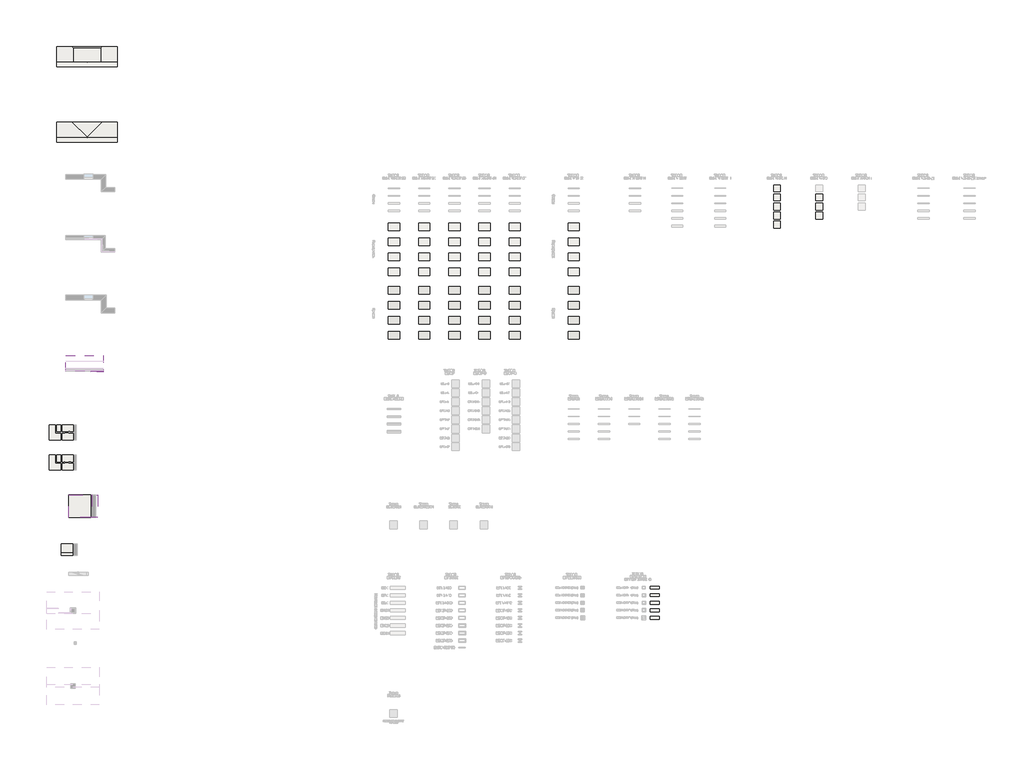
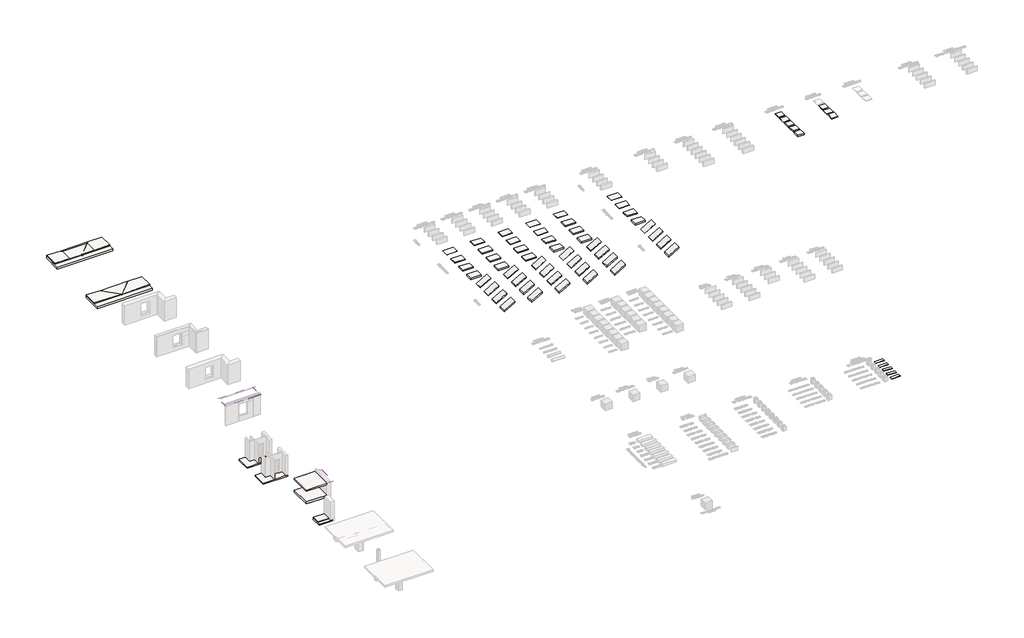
# One storey, part 5 of 35: 43 roofs, 30 slabs, 5 coverings, 1 pipe segment.
"""IFC4 building model written with IfcOpenShell, lengths in millimetres."""

from ifc_helpers import new_model, si_unit, point, frame, frame_2d, origin, origin_with_axes, place, context, project, spatial, polyline, circle_curve, ellipse_curve, trimmed, segment, composite_curve, outline, extrude, faceted_brep, element, save
from ifc_brep_helpers import plane_surface, revolved_surface, advanced_brep

model = new_model("IFC4")

# Units and contexts
model_context = context("Model", 3, world=origin())
ifc_project = project(units=[si_unit("LENGTHUNIT", "METRE", prefix="MILLI")], contexts=[model_context])

# Site, building, storey
site = spatial("IfcSite", under=ifc_project)
building = spatial("IfcBuilding", under=site)
storey = spatial("IfcBuildingStorey", under=building, Name="Этаж 01", Elevation=0.0)

# Coverings
placement = place(None, origin())
element("IfcCovering", 1, ObjectType="Тизол EURO-ЛИТ 80 (30мм)", at=placement, inside=storey, context=model_context, shape_type="SweptSolid", body=[
    extrude(outline(polyline([(37129.3548665, -48942.5493767), (37129.3548665, -49322.5493767), (35929.3548665, -49322.5493767), (35929.3548665, -48942.5493767), (37129.3548665, -48942.5493767)])), origin_with_axes(), (0.0, 0.0, 1.0), 30.0),
])
element("IfcCovering", 2, ObjectType="Тизол EURO-ЛИТ 80 (40мм)", at=placement, inside=storey, context=model_context, shape_type="SweptSolid", body=[
    extrude(outline(polyline([(37129.3548665, -49942.5493767), (37129.3548665, -50322.5493767), (35929.3548665, -50322.5493767), (35929.3548665, -49942.5493767), (37129.3548665, -49942.5493767)])), origin_with_axes(), (0.0, 0.0, 1.0), 40.0),
])
element("IfcCovering", 3, ObjectType="Тизол EURO-ЛИТ 80 (50мм)", at=placement, inside=storey, context=model_context, shape_type="SweptSolid", body=[
    extrude(outline(polyline([(37129.3548665, -50942.5493767), (37129.3548665, -51322.5493767), (35929.3548665, -51322.5493767), (35929.3548665, -50942.5493767), (37129.3548665, -50942.5493767)])), origin_with_axes(), (0.0, 0.0, 1.0), 50.0),
])
element("IfcCovering", 4, ObjectType="Тизол EURO-ЛИТ 80 (60мм)", at=placement, inside=storey, context=model_context, shape_type="SweptSolid", body=[
    extrude(outline(polyline([(37129.3548665, -51942.5493767), (37129.3548665, -52322.5493767), (35929.3548665, -52322.5493767), (35929.3548665, -51942.5493767), (37129.3548665, -51942.5493767)])), origin_with_axes(), (0.0, 0.0, 1.0), 60.0),
])
element("IfcCovering", 5, ObjectType="Тизол EURO-ЛИТ 80 (80мм)", at=placement, inside=storey, context=model_context, shape_type="SweptSolid", body=[
    extrude(outline(polyline([(37129.3548665, -52942.5493767), (37129.3548665, -53322.5493767), (35929.3548665, -53322.5493767), (35929.3548665, -52942.5493767), (37129.3548665, -52942.5493767)])), origin_with_axes(), (0.0, 0.0, 1.0), 80.0),
])

# Pipe segment
element("IfcPipeSegment", 6, ObjectType="ADSK_Желоб_Скос_125х125", at=placement, inside=storey, context=model_context, shape_type="SweptSolid", body=[
    extrude(outline(polyline([(-20449.5243348, 2980.3791945), (-20523.7243348, 2980.3791945), (-20561.8243348, 3079.8914271), (-20574.5243348, 3079.8914271), (-20574.5243348, 3092.5914271), (-20561.8243348, 3092.5914271), (-20561.8243348, 3089.4164271), (-20571.3493348, 3089.4164271), (-20571.3493348, 3083.0664271), (-20559.4620375, 3083.0664271), (-20521.3620375, 2983.5541945), (-20452.6993348, 2983.5541945), (-20452.6993348, 3105.2914271), (-20449.5243348, 3105.2914271), (-20449.5243348, 2980.3791945)])), frame((-38175.0301385, 0.0, 0.0), z_axis=(1.0, 0.0, 0.0), x_axis=(0.0, 1.0, 0.0)), (0.0, 0.0, 1.0), 1700.0),
])

# Roofs
element("IfcRoof", 7, ObjectType="Тизол EURO-РУФ Н (40мм)", at=placement, inside=storey, context=model_context, shape_type="SweptSolid", body=[
    extrude(outline(polyline([(52250.0, 4200.0), (53150.0, 4200.0), (53150.0, 3300.0), (52250.0, 3300.0), (52250.0, 4200.0)])), origin_with_axes(), (0.0, 0.0, 1.0), 40.0),
])
element("IfcRoof", 8, ObjectType="Тизол EURO-РУФ Н (50мм)", at=placement, inside=storey, context=model_context, shape_type="SweptSolid", body=[
    extrude(outline(polyline([(52250.0, 3000.0), (53150.0, 3000.0), (53150.0, 2100.0), (52250.0, 2100.0), (52250.0, 3000.0)])), origin_with_axes(), (0.0, 0.0, 1.0), 50.0),
])
element("IfcRoof", 9, ObjectType="Тизол EURO-РУФ Н (100мм)", at=placement, inside=storey, context=model_context, shape_type="SweptSolid", body=[
    extrude(outline(polyline([(52250.0, 1800.0), (53150.0, 1800.0), (53150.0, 900.0), (52250.0, 900.0), (52250.0, 1800.0)])), origin_with_axes(), (0.0, 0.0, 1.0), 100.0),
])
element("IfcRoof", 10, ObjectType="Тизол EURO-РУФ Н (150мм)", at=placement, inside=storey, context=model_context, shape_type="SweptSolid", body=[
    extrude(outline(polyline([(52250.0, 600.0), (53150.0, 600.0), (53150.0, -300.0), (52250.0, -300.0), (52250.0, 600.0)])), origin_with_axes(), (0.0, 0.0, 1.0), 150.0),
])
element("IfcRoof", 11, ObjectType="Тизол EURO-РУФ Н (200мм)", at=placement, inside=storey, context=model_context, shape_type="SweptSolid", body=[
    extrude(outline(polyline([(52250.0, -600.0), (53150.0, -600.0), (53150.0, -1500.0), (52250.0, -1500.0), (52250.0, -600.0)])), origin_with_axes(), (0.0, 0.0, 1.0), 200.0),
])
element("IfcRoof", 12, ObjectType="Тизол EURO-РУФ (50мм)", at=placement, inside=storey, context=model_context, shape_type="SweptSolid", body=[
    extrude(outline(polyline([(57850.0, 3000.0), (58750.0, 3000.0), (58750.0, 2100.0), (57850.0, 2100.0), (57850.0, 3000.0)])), origin_with_axes(), (0.0, 0.0, 1.0), 50.0),
])
element("IfcRoof", 13, ObjectType="Тизол EURO-РУФ (100мм)", at=placement, inside=storey, context=model_context, shape_type="SweptSolid", body=[
    extrude(outline(polyline([(57850.0, 1800.0), (58750.0, 1800.0), (58750.0, 900.0), (57850.0, 900.0), (57850.0, 1800.0)])), origin_with_axes(), (0.0, 0.0, 1.0), 100.0),
])
element("IfcRoof", 14, ObjectType="Тизол EURO-РУФ (150мм)", at=placement, inside=storey, context=model_context, shape_type="SweptSolid", body=[
    extrude(outline(polyline([(57850.0, 600.0), (58750.0, 600.0), (58750.0, -300.0), (57850.0, -300.0), (57850.0, 600.0)])), origin_with_axes(), (0.0, 0.0, 1.0), 150.0),
])
element("IfcRoof", 15, ObjectType="Плита Бетон 200мм Пароизоляция Утеплитель Тизол Руф-Н 100мм", at=placement, inside=storey, context=model_context, shape_type="SweptSolid", body=[
    extrude(outline(polyline([(-42637.9965418, 19844.4262823), (-42637.9965418, 22544.4262823), (-34637.9965418, 22544.4262823), (-34637.9965418, 19844.4262823), (-42637.9965418, 19844.4262823)]), holes=[composite_curve([segment(trimmed(circle_curve(frame_2d((-38637.9965418, 20544.4262823)), 50.0), [point((-38687.9965418, 20544.4262823))], [point((-38587.9965418, 20544.4262823))], True, "CARTESIAN"), True, "CONTINUOUS"), segment(trimmed(circle_curve(frame_2d((-38637.9965418, 20544.4262823)), 50.0), [point((-38587.9965418, 20544.4262823))], [point((-38687.9965418, 20544.4262823))], True, "CARTESIAN"), True, "CONTINUOUS")], self_intersect=False)]), origin_with_axes(), (0.0, 0.0, 1.0), 300.0),
])
element("IfcRoof", 16, ObjectType="Утеплитель Тизол Руф Уклон 110мм", at=placement, inside=storey, context=model_context, shape_type="SweptSolid", body=[
    extrude(outline(composite_curve([segment(polyline([(-42637.9965418, 22544.4262823), (-34637.9965418, 22544.4262823), (-34637.9965418, 20544.4262823), (-38587.9965418, 20544.4262823)]), True, "CONTINUOUS"), segment(trimmed(circle_curve(frame_2d((-38637.9965418, 20544.4262823)), 50.0), [point((-38587.9965418, 20544.4262823))], [point((-38687.9965418, 20544.4262823))], True, "CARTESIAN"), True, "CONTINUOUS"), segment(polyline([(-38687.9965418, 20544.4262823), (-42637.9965418, 20544.4262823), (-42637.9965418, 22544.4262823)]), True, "CONTINUOUS")], self_intersect=False)), frame((0.0, 0.0, 300.0), z_axis=(0.0, 0.0, 1.0), x_axis=(1.0, 0.0, 0.0)), (0.0, 0.0, 1.0), 110.0),
])
element("IfcRoof", 17, ObjectType="Покрытие ПВХ_стяжка 50 мм", at=placement, inside=storey, context=model_context, shape_type="AdvancedBrep", body=[
    advanced_brep(
    [(-40637.9965418, 22544.4262823, 360.0), (-42637.9965418, 22544.4262823, 410.0), (-42637.9965418, 22544.4262823, 465.0171848), (-40637.9965418, 22544.4262823, 415.0171848), (-42637.9965418, 20544.4262823, 410.0), (-42637.9965418, 20544.4262823, 465.0171848), (-38673.3518808, 20579.7816214, 310.8838835), (-38687.9965418, 20544.4262823, 311.25), (-38687.9965418, 20544.4262823, 366.2671848), (-38673.3518808, 20579.7816214, 365.9010683)],
    [
        (0, 1),
        (1, 2),
        (2, 3),
        (3, 0),
        (1, 4),
        (4, 5),
        (5, 2),
        (0, 6),
        (6, 7, ellipse_curve(frame((-38637.9965418, 20544.4262823, 310.0), z_axis=(0.02499219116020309, 0.0, 0.9996876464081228), x_axis=(-0.9996876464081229, 0.0, 0.024992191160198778)), 50.0156226, 50.0)),
        (7, 4),
        (5, 8),
        (8, 9, ellipse_curve(frame((-38637.9965418, 20544.4262823, 365.0171848), z_axis=(-0.02499219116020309, 0.0, -0.9996876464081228), x_axis=(-0.9996876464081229, 0.0, 0.024992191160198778)), 50.0156226, 50.0)),
        (9, 3),
        (7, 8),
        (6, 9),
    ],
    [
        plane_surface(frame((-40637.9965418, 22544.4262823, 0.0), z_axis=(0.0, 1.0, 0.0), x_axis=(-1.0, 0.0, 0.0))),
        plane_surface(frame((-42637.9965418, 22544.4262823, 0.0), z_axis=(-1.0, 0.0, 0.0), x_axis=(0.0, -1.0, 0.0))),
        plane_surface(frame((-42637.9965418, 20544.4262823, 410.0), z_axis=(-0.02499219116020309, 0.0, -0.9996876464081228), x_axis=(0.0, -1.0, 0.0))),
        plane_surface(frame((-42637.9965418, 20544.4262823, 465.0171848), z_axis=(0.02499219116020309, 0.0, 0.9996876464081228), x_axis=(0.0, -1.0, 0.0))),
        plane_surface(frame((-42637.9965418, 20544.4262823, 0.0), z_axis=(0.0, -1.0, 0.0), x_axis=(1.0, 0.0, 0.0))),
        revolved_surface(polyline([(-38587.9965418, 20544.4262823, 366.26718480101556), (-38587.9965418, 20544.4262823, 308.74999999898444)]), (-38637.9965418, 20544.4262823, 0.0), (0.0, 0.0, 1.0)),
        plane_surface(frame((-38637.9965418, 20544.4262823, 0.0), z_axis=(0.7071067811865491, 0.707106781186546, 0.0), x_axis=(-0.707106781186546, 0.7071067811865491, 0.0))),
    ],
    [
        (0, [[1, 2, 3, 4]]),
        (1, [[5, 6, 7, -2]]),
        (2, [[-1, 8, 9, 10, -5]]),
        (3, [[-3, -7, 11, 12, 13]]),
        (4, [[-6, -10, 14, -11]]),
        (5, [[-9, 15, -12, -14]]),
        (6, [[-4, -13, -15, -8]]),
    ],
),
])
element("IfcRoof", 18, ObjectType="Покрытие ПВХ_стяжка 50 мм", at=placement, inside=storey, context=model_context, shape_type="AdvancedBrep", body=[
    advanced_brep(
    [(-34637.9965418, 22544.4262823, 410.0), (-36637.9965418, 22544.4262823, 360.0), (-36637.9965418, 22544.4262823, 415.0171848), (-34637.9965418, 22544.4262823, 465.0171848), (-34637.9965418, 20544.4262823, 410.0), (-34637.9965418, 20544.4262823, 465.0171848), (-38587.9965418, 20544.4262823, 311.25), (-38602.6412027, 20579.7816214, 310.8838835), (-38602.6412027, 20579.7816214, 365.9010683), (-38587.9965418, 20544.4262823, 366.2671848)],
    [
        (0, 1),
        (1, 2),
        (2, 3),
        (3, 0),
        (4, 0),
        (3, 5),
        (5, 4),
        (4, 6),
        (6, 7, ellipse_curve(frame((-38637.9965418, 20544.4262823, 310.0), z_axis=(-0.02499219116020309, 0.0, 0.9996876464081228), x_axis=(0.9996876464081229, 0.0, 0.024992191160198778)), 50.0156226, 50.0)),
        (7, 1),
        (2, 8),
        (8, 9, ellipse_curve(frame((-38637.9965418, 20544.4262823, 365.0171848), z_axis=(0.02499219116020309, 0.0, -0.9996876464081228), x_axis=(0.9996876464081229, 0.0, 0.024992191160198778)), 50.0156226, 50.0)),
        (9, 5),
        (9, 6),
        (7, 8),
    ],
    [
        plane_surface(frame((-34637.9965418, 22544.4262823, 0.0), z_axis=(0.0, 1.0, 0.0), x_axis=(-1.0, 0.0, 0.0))),
        plane_surface(frame((-34637.9965418, 20544.4262823, 0.0), z_axis=(1.0, 0.0, 0.0), x_axis=(0.0, 1.0, 0.0))),
        plane_surface(frame((-34637.9965418, 20544.4262823, 410.0), z_axis=(0.02499219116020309, 0.0, -0.9996876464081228), x_axis=(0.0, 1.0, 0.0))),
        plane_surface(frame((-34637.9965418, 20544.4262823, 465.0171848), z_axis=(-0.02499219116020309, 0.0, 0.9996876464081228), x_axis=(0.0, 1.0, 0.0))),
        plane_surface(frame((-38637.9965418, 20544.4262823, 0.0), z_axis=(0.0, -1.0, 0.0), x_axis=(1.0, 0.0, 0.0))),
        plane_surface(frame((-36637.9965418, 22544.4262823, 0.0), z_axis=(-0.7071067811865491, 0.707106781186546, 0.0), x_axis=(-0.707106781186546, -0.7071067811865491, 0.0))),
        revolved_surface(polyline([(-38587.9965418, 20544.4262823, 366.26718480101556), (-38587.9965418, 20544.4262823, 308.74999999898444)]), (-38637.9965418, 20544.4262823, 0.0), (0.0, 0.0, 1.0)),
    ],
    [
        (0, [[1, 2, 3, 4]]),
        (1, [[5, -4, 6, 7]]),
        (2, [[-1, -5, 8, 9, 10]]),
        (3, [[-3, 11, 12, 13, -6]]),
        (4, [[-7, -13, 14, -8]]),
        (5, [[-2, -10, 15, -11]]),
        (6, [[-9, -14, -12, -15]]),
    ],
),
])
element("IfcRoof", 19, ObjectType="Покрытие ПВХ_стяжка 50 мм", at=placement, inside=storey, context=model_context, shape_type="AdvancedBrep", body=[
    advanced_brep(
    [(-40637.9965418, 22544.4262823, 360.0), (-36637.9965418, 22544.4262823, 360.0), (-38602.6412027, 20579.7816214, 310.8838835), (-38673.3518808, 20579.7816214, 310.8838835), (-36637.9965418, 22544.4262823, 415.0171848), (-40637.9965418, 22544.4262823, 415.0171848), (-38673.3518808, 20579.7816214, 365.9010683), (-38602.6412027, 20579.7816214, 365.9010683)],
    [
        (0, 1),
        (1, 2),
        (2, 3, ellipse_curve(frame((-38637.9965418, 20544.4262823, 310.0), z_axis=(0.0, -0.02499219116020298, 0.9996876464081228), x_axis=(0.0, 0.9996876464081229, 0.02499219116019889)), 50.0156226, 50.0)),
        (3, 0),
        (4, 5),
        (5, 6),
        (6, 7, ellipse_curve(frame((-38637.9965418, 20544.4262823, 365.0171848), z_axis=(0.0, 0.02499219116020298, -0.9996876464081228), x_axis=(0.0, 0.9996876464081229, 0.02499219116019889)), 50.0156226, 50.0)),
        (7, 4),
        (5, 0),
        (3, 6),
        (2, 7),
        (1, 4),
    ],
    [
        plane_surface(frame((-40637.9965418, 22544.4262823, 360.0), z_axis=(0.0, 0.02499219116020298, -0.9996876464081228), x_axis=(-1.0, 0.0, 0.0))),
        plane_surface(frame((-40637.9965418, 22544.4262823, 415.0171848), z_axis=(0.0, -0.02499219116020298, 0.9996876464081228), x_axis=(-1.0, 0.0, 0.0))),
        plane_surface(frame((-40637.9965418, 22544.4262823, 0.0), z_axis=(-0.7071067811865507, -0.7071067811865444, 0.0), x_axis=(0.7071067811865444, -0.7071067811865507, 0.0))),
        revolved_surface(polyline([(-38587.9965418, 20544.4262823, 366.26718480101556), (-38587.9965418, 20544.4262823, 308.74999999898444)]), (-38637.9965418, 20544.4262823, 0.0), (0.0, 0.0, 1.0)),
        plane_surface(frame((-38637.9965418, 20544.4262823, 0.0), z_axis=(0.7071067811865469, -0.7071067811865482, 0.0), x_axis=(0.7071067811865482, 0.7071067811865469, 0.0))),
        plane_surface(frame((-36637.9965418, 22544.4262823, 0.0), z_axis=(0.0, 1.0, 0.0), x_axis=(-1.0, 0.0, 0.0))),
    ],
    [
        (0, [[1, 2, 3, 4]]),
        (1, [[5, 6, 7, 8]]),
        (2, [[9, -4, 10, -6]]),
        (3, [[-3, 11, -7, -10]]),
        (4, [[12, -8, -11, -2]]),
        (5, [[-1, -9, -5, -12]]),
    ],
),
])
element("IfcRoof", 20, ObjectType="Плита Бетон 200мм Пароизоляция Керамзитобетон 130мм", at=placement, inside=storey, context=model_context, shape_type="SweptSolid", body=[
    extrude(outline(polyline([(-42637.9965418, 9844.4262823), (-42637.9965418, 12544.4262823), (-34637.9965418, 12544.4262823), (-34637.9965418, 9844.4262823), (-42637.9965418, 9844.4262823)]), holes=[composite_curve([segment(trimmed(circle_curve(frame_2d((-38637.9965418, 10544.4262823)), 50.0), [point((-38687.9965418, 10544.4262823))], [point((-38587.9965418, 10544.4262823))], True, "CARTESIAN"), True, "CONTINUOUS"), segment(trimmed(circle_curve(frame_2d((-38637.9965418, 10544.4262823)), 50.0), [point((-38587.9965418, 10544.4262823))], [point((-38687.9965418, 10544.4262823))], True, "CARTESIAN"), True, "CONTINUOUS")], self_intersect=False)]), origin_with_axes(), (0.0, 0.0, 1.0), 330.0),
])
element("IfcRoof", 21, ObjectType="Покрытие ПВХ_Утеплитель Тизол EURO РУФ 150 мм", at=placement, inside=storey, context=model_context, shape_type="AdvancedBrep", body=[
    advanced_brep(
    [(-40637.9965418, 12544.4262823, 280.0), (-42637.9965418, 12544.4262823, 330.0), (-42637.9965418, 12544.4262823, 485.0484299), (-40637.9965418, 12544.4262823, 435.0484299), (-42637.9965418, 10544.4262823, 330.0), (-42637.9965418, 10544.4262823, 485.0484299), (-38673.3518808, 10579.7816214, 230.8838835), (-38687.9965418, 10544.4262823, 231.25), (-38687.9965418, 10544.4262823, 386.2984299), (-38673.3518808, 10579.7816214, 385.9323134)],
    [
        (0, 1),
        (1, 2),
        (2, 3),
        (3, 0),
        (1, 4),
        (4, 5),
        (5, 2),
        (0, 6),
        (6, 7, ellipse_curve(frame((-38637.9965418, 10544.4262823, 230.0), z_axis=(0.02499219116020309, 0.0, 0.9996876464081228), x_axis=(-0.9996876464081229, 0.0, 0.024992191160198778)), 50.0156226, 50.0)),
        (7, 4),
        (5, 8),
        (8, 9, ellipse_curve(frame((-38637.9965418, 10544.4262823, 385.0484299), z_axis=(-0.02499219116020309, 0.0, -0.9996876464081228), x_axis=(-0.9996876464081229, 0.0, 0.024992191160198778)), 50.0156226, 50.0)),
        (9, 3),
        (7, 8),
        (6, 9),
    ],
    [
        plane_surface(frame((-40637.9965418, 12544.4262823, 0.0), z_axis=(0.0, 1.0, 0.0), x_axis=(-1.0, 0.0, 0.0))),
        plane_surface(frame((-42637.9965418, 12544.4262823, 0.0), z_axis=(-1.0, 0.0, 0.0), x_axis=(0.0, -1.0, 0.0))),
        plane_surface(frame((-42637.9965418, 10544.4262823, 330.0), z_axis=(-0.02499219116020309, 0.0, -0.9996876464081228), x_axis=(0.0, -1.0, 0.0))),
        plane_surface(frame((-42637.9965418, 10544.4262823, 485.0484299), z_axis=(0.02499219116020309, 0.0, 0.9996876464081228), x_axis=(0.0, -1.0, 0.0))),
        plane_surface(frame((-42637.9965418, 10544.4262823, 0.0), z_axis=(0.0, -1.0, 0.0), x_axis=(1.0, 0.0, 0.0))),
        revolved_surface(polyline([(-38587.9965418, 10544.4262823, 386.29842990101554), (-38587.9965418, 10544.4262823, 228.74999999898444)]), (-38637.9965418, 10544.4262823, 0.0), (0.0, 0.0, 1.0)),
        plane_surface(frame((-38637.9965418, 10544.4262823, 0.0), z_axis=(0.7071067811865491, 0.707106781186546, 0.0), x_axis=(-0.707106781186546, 0.7071067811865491, 0.0))),
    ],
    [
        (0, [[1, 2, 3, 4]]),
        (1, [[5, 6, 7, -2]]),
        (2, [[-1, 8, 9, 10, -5]]),
        (3, [[-3, -7, 11, 12, 13]]),
        (4, [[-6, -10, 14, -11]]),
        (5, [[-9, 15, -12, -14]]),
        (6, [[-4, -13, -15, -8]]),
    ],
),
])
element("IfcRoof", 22, ObjectType="Покрытие ПВХ_Утеплитель Тизол EURO РУФ 150 мм", at=placement, inside=storey, context=model_context, shape_type="AdvancedBrep", body=[
    advanced_brep(
    [(-34637.9965418, 12544.4262823, 330.0), (-36637.9965418, 12544.4262823, 280.0), (-36637.9965418, 12544.4262823, 435.0484299), (-34637.9965418, 12544.4262823, 485.0484299), (-34637.9965418, 10544.4262823, 330.0), (-34637.9965418, 10544.4262823, 485.0484299), (-38587.9965418, 10544.4262823, 231.25), (-38602.6412027, 10579.7816214, 230.8838835), (-38602.6412027, 10579.7816214, 385.9323134), (-38587.9965418, 10544.4262823, 386.2984299)],
    [
        (0, 1),
        (1, 2),
        (2, 3),
        (3, 0),
        (4, 0),
        (3, 5),
        (5, 4),
        (4, 6),
        (6, 7, ellipse_curve(frame((-38637.9965418, 10544.4262823, 230.0), z_axis=(-0.02499219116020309, 0.0, 0.9996876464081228), x_axis=(0.9996876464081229, 0.0, 0.024992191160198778)), 50.0156226, 50.0)),
        (7, 1),
        (2, 8),
        (8, 9, ellipse_curve(frame((-38637.9965418, 10544.4262823, 385.0484299), z_axis=(0.02499219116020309, 0.0, -0.9996876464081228), x_axis=(0.9996876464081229, 0.0, 0.024992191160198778)), 50.0156226, 50.0)),
        (9, 5),
        (9, 6),
        (7, 8),
    ],
    [
        plane_surface(frame((-34637.9965418, 12544.4262823, 0.0), z_axis=(0.0, 1.0, 0.0), x_axis=(-1.0, 0.0, 0.0))),
        plane_surface(frame((-34637.9965418, 10544.4262823, 0.0), z_axis=(1.0, 0.0, 0.0), x_axis=(0.0, 1.0, 0.0))),
        plane_surface(frame((-34637.9965418, 10544.4262823, 330.0), z_axis=(0.02499219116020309, 0.0, -0.9996876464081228), x_axis=(0.0, 1.0, 0.0))),
        plane_surface(frame((-34637.9965418, 10544.4262823, 485.0484299), z_axis=(-0.02499219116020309, 0.0, 0.9996876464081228), x_axis=(0.0, 1.0, 0.0))),
        plane_surface(frame((-38637.9965418, 10544.4262823, 0.0), z_axis=(0.0, -1.0, 0.0), x_axis=(1.0, 0.0, 0.0))),
        plane_surface(frame((-36637.9965418, 12544.4262823, 0.0), z_axis=(-0.7071067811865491, 0.707106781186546, 0.0), x_axis=(-0.707106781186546, -0.7071067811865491, 0.0))),
        revolved_surface(polyline([(-38587.9965418, 10544.4262823, 386.29842990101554), (-38587.9965418, 10544.4262823, 228.74999999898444)]), (-38637.9965418, 10544.4262823, 0.0), (0.0, 0.0, 1.0)),
    ],
    [
        (0, [[1, 2, 3, 4]]),
        (1, [[5, -4, 6, 7]]),
        (2, [[-1, -5, 8, 9, 10]]),
        (3, [[-3, 11, 12, 13, -6]]),
        (4, [[-7, -13, 14, -8]]),
        (5, [[-2, -10, 15, -11]]),
        (6, [[-9, -14, -12, -15]]),
    ],
),
])
element("IfcRoof", 23, ObjectType="Покрытие ПВХ_Утеплитель Тизол EURO РУФ 150 мм", at=placement, inside=storey, context=model_context, shape_type="AdvancedBrep", body=[
    advanced_brep(
    [(-40637.9965418, 12544.4262823, 280.0), (-36637.9965418, 12544.4262823, 280.0), (-38602.6412027, 10579.7816214, 230.8838835), (-38673.3518808, 10579.7816214, 230.8838835), (-36637.9965418, 12544.4262823, 435.0484299), (-40637.9965418, 12544.4262823, 435.0484299), (-38673.3518808, 10579.7816214, 385.9323134), (-38602.6412027, 10579.7816214, 385.9323134)],
    [
        (0, 1),
        (1, 2),
        (2, 3, ellipse_curve(frame((-38637.9965418, 10544.4262823, 230.0), z_axis=(0.0, -0.024992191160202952, 0.9996876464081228), x_axis=(0.0, 0.9996876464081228, 0.024992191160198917)), 50.0156226, 50.0)),
        (3, 0),
        (4, 5),
        (5, 6),
        (6, 7, ellipse_curve(frame((-38637.9965418, 10544.4262823, 385.0484299), z_axis=(0.0, 0.02499219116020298, -0.9996876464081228), x_axis=(0.0, 0.9996876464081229, 0.02499219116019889)), 50.0156226, 50.0)),
        (7, 4),
        (5, 0),
        (3, 6),
        (2, 7),
        (1, 4),
    ],
    [
        plane_surface(frame((-40637.9965418, 12544.4262823, 280.0), z_axis=(0.0, 0.024992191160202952, -0.9996876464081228), x_axis=(-1.0, 0.0, 0.0))),
        plane_surface(frame((-40637.9965418, 12544.4262823, 435.0484299), z_axis=(0.0, -0.02499219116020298, 0.9996876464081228), x_axis=(-1.0, 0.0, 0.0))),
        plane_surface(frame((-40637.9965418, 12544.4262823, 0.0), z_axis=(-0.7071067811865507, -0.7071067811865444, 0.0), x_axis=(0.7071067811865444, -0.7071067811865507, 0.0))),
        revolved_surface(polyline([(-38587.9965418, 10544.4262823, 386.29842990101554), (-38587.9965418, 10544.4262823, 228.74999999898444)]), (-38637.9965418, 10544.4262823, 0.0), (0.0, 0.0, 1.0)),
        plane_surface(frame((-38637.9965418, 10544.4262823, 0.0), z_axis=(0.7071067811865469, -0.7071067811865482, 0.0), x_axis=(0.7071067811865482, 0.7071067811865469, 0.0))),
        plane_surface(frame((-36637.9965418, 12544.4262823, 0.0), z_axis=(0.0, 1.0, 0.0), x_axis=(-1.0, 0.0, 0.0))),
    ],
    [
        (0, [[1, 2, 3, 4]]),
        (1, [[5, 6, 7, 8]]),
        (2, [[9, -4, 10, -6]]),
        (3, [[-3, 11, -7, -10]]),
        (4, [[12, -8, -11, -2]]),
        (5, [[-1, -9, -5, -12]]),
    ],
),
])
element("IfcRoof", 24, ObjectType="Каркасная кровля Профлист С-20 Утеплитель Тизол EURO ЛАЙТ 50 100мм Профлист С-20", at=placement, inside=storey, context=model_context, shape_type="Brep", body=[
    faceted_brep([(-41475.0301385, -20409.5243348, 3000.0), (-41475.0301385, -20259.5243348, 3040.1923789), (-41475.0301385, -18409.5243348, 3535.8983849), (-36475.0301385, -18409.5243348, 3535.8983849), (-36475.0301385, -20259.5243348, 3040.1923789), (-36475.0301385, -20409.5243348, 3000.0), (-41475.0301385, -18409.5243348, 3691.1898119), (-41475.0301385, -20409.5243348, 3155.2914271), (-36475.0301385, -20409.5243348, 3155.2914271), (-36475.0301385, -18409.5243348, 3691.1898119)], [[[0, 1, 2, 3, 4, 5]], [[6, 7, 8, 9]], [[5, 8, 7, 0]], [[7, 6, 2, 1, 0]], [[6, 9, 3, 2]], [[9, 8, 5, 4, 3]]]),
])
element("IfcRoof", 25, ObjectType="Скатная кровля Черепица 50мм Утеплитель Тизол EURO-БЛОК 200мм", at=placement, inside=storey, context=model_context, shape_type="SweptSolid", body=[
    extrude(outline(polyline([(3925.6852877, -41044.6755112), (1805.3664241, -37372.1755112), (2121.4656965, -37189.6755112), (4347.1509842, -41044.6755112), (3925.6852877, -41044.6755112)])), frame((0.0, -39859.6455937, 0.0), z_axis=(0.0, 1.0, 0.0), x_axis=(0.0, 0.0, 1.0)), (0.0, 0.0, 1.0), 3000.0),
])
element("IfcRoof", 26, ObjectType="Тизол EURO-ЛАЙТ 25 (50мм)", at=placement, inside=storey, context=model_context, shape_type="SweptSolid", body=[
    extrude(outline(polyline([(923.7604307, 2738.9564212), (57.7350269, 1238.9564212), (0.0, 1238.9564212), (866.0254038, 2738.9564212), (923.7604307, 2738.9564212)])), frame((0.0, -10227.4513899, 0.0), z_axis=(0.0, 1.0, 0.0), x_axis=(0.0, 0.0, 1.0)), (0.0, 0.0, 1.0), 1000.0),
])
element("IfcRoof", 27, ObjectType="Тизол EURO-ЛАЙТ 25 (100мм)", at=placement, inside=storey, context=model_context, shape_type="SweptSolid", body=[
    extrude(outline(polyline([(981.4954576, 2738.9564212), (115.4700538, 1238.9564212), (0.0, 1238.9564212), (866.0254038, 2738.9564212), (981.4954576, 2738.9564212)])), frame((0.0, -12227.4513899, 0.0), z_axis=(0.0, 1.0, 0.0), x_axis=(0.0, 0.0, 1.0)), (0.0, 0.0, 1.0), 1000.0),
])
element("IfcRoof", 28, ObjectType="Тизол EURO-ЛАЙТ 25 (150мм)", at=placement, inside=storey, context=model_context, shape_type="SweptSolid", body=[
    extrude(outline(polyline([(1039.2304845, 2738.9564212), (173.2050808, 1238.9564212), (0.0, 1238.9564212), (866.0254038, 2738.9564212), (1039.2304845, 2738.9564212)])), frame((0.0, -14227.4513899, 0.0), z_axis=(0.0, 1.0, 0.0), x_axis=(0.0, 0.0, 1.0)), (0.0, 0.0, 1.0), 1000.0),
])
element("IfcRoof", 29, ObjectType="Тизол EURO-ЛАЙТ 25 (200мм)", at=placement, inside=storey, context=model_context, shape_type="SweptSolid", body=[
    extrude(outline(polyline([(1096.9655115, 2738.9564212), (230.9401077, 1238.9564212), (0.0, 1238.9564212), (866.0254038, 2738.9564212), (1096.9655115, 2738.9564212)])), frame((0.0, -16227.4513899, 0.0), z_axis=(0.0, 1.0, 0.0), x_axis=(0.0, 0.0, 1.0)), (0.0, 0.0, 1.0), 1000.0),
])
element("IfcRoof", 30, ObjectType="Тизол EURO-ЛАЙТ 30 (50мм)", at=placement, inside=storey, context=model_context, shape_type="SweptSolid", body=[
    extrude(outline(polyline([(923.7604307, 6738.9564212), (57.7350269, 5238.9564212), (0.0, 5238.9564212), (866.0254038, 6738.9564212), (923.7604307, 6738.9564212)])), frame((0.0, -10227.4513899, 0.0), z_axis=(0.0, 1.0, 0.0), x_axis=(0.0, 0.0, 1.0)), (0.0, 0.0, 1.0), 1000.0),
])
element("IfcRoof", 31, ObjectType="Тизол EURO-ЛАЙТ 30 (100мм)", at=placement, inside=storey, context=model_context, shape_type="SweptSolid", body=[
    extrude(outline(polyline([(981.4954576, 6738.9564212), (115.4700538, 5238.9564212), (0.0, 5238.9564212), (866.0254038, 6738.9564212), (981.4954576, 6738.9564212)])), frame((0.0, -12227.4513899, 0.0), z_axis=(0.0, 1.0, 0.0), x_axis=(0.0, 0.0, 1.0)), (0.0, 0.0, 1.0), 1000.0),
])
element("IfcRoof", 32, ObjectType="Тизол EURO-ЛАЙТ 30 (150мм)", at=placement, inside=storey, context=model_context, shape_type="SweptSolid", body=[
    extrude(outline(polyline([(1039.2304845, 6738.9564212), (173.2050808, 5238.9564212), (0.0, 5238.9564212), (866.0254038, 6738.9564212), (1039.2304845, 6738.9564212)])), frame((0.0, -14227.4513899, 0.0), z_axis=(0.0, 1.0, 0.0), x_axis=(0.0, 0.0, 1.0)), (0.0, 0.0, 1.0), 1000.0),
])
element("IfcRoof", 33, ObjectType="Тизол EURO-ЛАЙТ 30 (200мм)", at=placement, inside=storey, context=model_context, shape_type="SweptSolid", body=[
    extrude(outline(polyline([(1096.9655115, 6738.9564212), (230.9401077, 5238.9564212), (0.0, 5238.9564212), (866.0254038, 6738.9564212), (1096.9655115, 6738.9564212)])), frame((0.0, -16227.4513899, 0.0), z_axis=(0.0, 1.0, 0.0), x_axis=(0.0, 0.0, 1.0)), (0.0, 0.0, 1.0), 1000.0),
])
element("IfcRoof", 34, ObjectType="Тизол EURO-ЛАЙТ 35 (50мм)", at=placement, inside=storey, context=model_context, shape_type="SweptSolid", body=[
    extrude(outline(polyline([(923.7604307, 10738.9564212), (57.7350269, 9238.9564212), (0.0, 9238.9564212), (866.0254038, 10738.9564212), (923.7604307, 10738.9564212)])), frame((0.0, -10227.4513899, 0.0), z_axis=(0.0, 1.0, 0.0), x_axis=(0.0, 0.0, 1.0)), (0.0, 0.0, 1.0), 1000.0),
])
element("IfcRoof", 35, ObjectType="Тизол EURO-ЛАЙТ 35 (100мм)", at=placement, inside=storey, context=model_context, shape_type="SweptSolid", body=[
    extrude(outline(polyline([(981.4954576, 10738.9564212), (115.4700538, 9238.9564212), (0.0, 9238.9564212), (866.0254038, 10738.9564212), (981.4954576, 10738.9564212)])), frame((0.0, -12227.4513899, 0.0), z_axis=(0.0, 1.0, 0.0), x_axis=(0.0, 0.0, 1.0)), (0.0, 0.0, 1.0), 1000.0),
])
element("IfcRoof", 36, ObjectType="Тизол EURO-ЛАЙТ 35 (150мм)", at=placement, inside=storey, context=model_context, shape_type="SweptSolid", body=[
    extrude(outline(polyline([(1039.2304845, 10738.9564212), (173.2050808, 9238.9564212), (0.0, 9238.9564212), (866.0254038, 10738.9564212), (1039.2304845, 10738.9564212)])), frame((0.0, -14227.4513899, 0.0), z_axis=(0.0, 1.0, 0.0), x_axis=(0.0, 0.0, 1.0)), (0.0, 0.0, 1.0), 1000.0),
])
element("IfcRoof", 37, ObjectType="Тизол EURO-ЛАЙТ 35 (200мм)", at=placement, inside=storey, context=model_context, shape_type="SweptSolid", body=[
    extrude(outline(polyline([(1096.9655115, 10738.9564212), (230.9401077, 9238.9564212), (0.0, 9238.9564212), (866.0254038, 10738.9564212), (1096.9655115, 10738.9564212)])), frame((0.0, -16227.4513899, 0.0), z_axis=(0.0, 1.0, 0.0), x_axis=(0.0, 0.0, 1.0)), (0.0, 0.0, 1.0), 1000.0),
])
element("IfcRoof", 38, ObjectType="Тизол EURO-ЛАЙТ 40 (50мм)", at=placement, inside=storey, context=model_context, shape_type="SweptSolid", body=[
    extrude(outline(polyline([(923.7604307, 14738.9564212), (57.7350269, 13238.9564212), (0.0, 13238.9564212), (866.0254038, 14738.9564212), (923.7604307, 14738.9564212)])), frame((0.0, -10227.4513899, 0.0), z_axis=(0.0, 1.0, 0.0), x_axis=(0.0, 0.0, 1.0)), (0.0, 0.0, 1.0), 1000.0),
])
element("IfcRoof", 39, ObjectType="Тизол EURO-ЛАЙТ 40 (100мм)", at=placement, inside=storey, context=model_context, shape_type="SweptSolid", body=[
    extrude(outline(polyline([(981.4954576, 14738.9564212), (115.4700538, 13238.9564212), (0.0, 13238.9564212), (866.0254038, 14738.9564212), (981.4954576, 14738.9564212)])), frame((0.0, -12227.4513899, 0.0), z_axis=(0.0, 1.0, 0.0), x_axis=(0.0, 0.0, 1.0)), (0.0, 0.0, 1.0), 1000.0),
])
element("IfcRoof", 40, ObjectType="Тизол EURO-ЛАЙТ 40 (150мм)", at=placement, inside=storey, context=model_context, shape_type="SweptSolid", body=[
    extrude(outline(polyline([(1039.2304845, 14738.9564212), (173.2050808, 13238.9564212), (0.0, 13238.9564212), (866.0254038, 14738.9564212), (1039.2304845, 14738.9564212)])), frame((0.0, -14227.4513899, 0.0), z_axis=(0.0, 1.0, 0.0), x_axis=(0.0, 0.0, 1.0)), (0.0, 0.0, 1.0), 1000.0),
])
element("IfcRoof", 41, ObjectType="Тизол EURO-ЛАЙТ 40 (200мм)", at=placement, inside=storey, context=model_context, shape_type="SweptSolid", body=[
    extrude(outline(polyline([(1096.9655115, 14738.9564212), (230.9401077, 13238.9564212), (0.0, 13238.9564212), (866.0254038, 14738.9564212), (1096.9655115, 14738.9564212)])), frame((0.0, -16227.4513899, 0.0), z_axis=(0.0, 1.0, 0.0), x_axis=(0.0, 0.0, 1.0)), (0.0, 0.0, 1.0), 1000.0),
])
element("IfcRoof", 42, ObjectType="Тизол EURO-ЛАЙТ 50 (50мм)", at=placement, inside=storey, context=model_context, shape_type="SweptSolid", body=[
    extrude(outline(polyline([(923.7604307, 18738.9564212), (57.7350269, 17238.9564212), (0.0, 17238.9564212), (866.0254038, 18738.9564212), (923.7604307, 18738.9564212)])), frame((0.0, -10227.4513899, 0.0), z_axis=(0.0, 1.0, 0.0), x_axis=(0.0, 0.0, 1.0)), (0.0, 0.0, 1.0), 1000.0),
])
element("IfcRoof", 43, ObjectType="Тизол EURO-ЛАЙТ 50 (100мм)", at=placement, inside=storey, context=model_context, shape_type="SweptSolid", body=[
    extrude(outline(polyline([(981.4954576, 18738.9564212), (115.4700538, 17238.9564212), (0.0, 17238.9564212), (866.0254038, 18738.9564212), (981.4954576, 18738.9564212)])), frame((0.0, -12227.4513899, 0.0), z_axis=(0.0, 1.0, 0.0), x_axis=(0.0, 0.0, 1.0)), (0.0, 0.0, 1.0), 1000.0),
])
element("IfcRoof", 44, ObjectType="Тизол EURO-ЛАЙТ 50 (150мм)", at=placement, inside=storey, context=model_context, shape_type="SweptSolid", body=[
    extrude(outline(polyline([(1039.2304845, 18738.9564212), (173.2050808, 17238.9564212), (0.0, 17238.9564212), (866.0254038, 18738.9564212), (1039.2304845, 18738.9564212)])), frame((0.0, -14227.4513899, 0.0), z_axis=(0.0, 1.0, 0.0), x_axis=(0.0, 0.0, 1.0)), (0.0, 0.0, 1.0), 1000.0),
])
element("IfcRoof", 45, ObjectType="Тизол EURO-ЛАЙТ 50 (200мм)", at=placement, inside=storey, context=model_context, shape_type="SweptSolid", body=[
    extrude(outline(polyline([(1096.9655115, 18738.9564212), (230.9401077, 17238.9564212), (0.0, 17238.9564212), (866.0254038, 18738.9564212), (1096.9655115, 18738.9564212)])), frame((0.0, -16227.4513899, 0.0), z_axis=(0.0, 1.0, 0.0), x_axis=(0.0, 0.0, 1.0)), (0.0, 0.0, 1.0), 1000.0),
])
element("IfcRoof", 46, ObjectType="Тизол EURO-БЛОК (50мм)", at=placement, inside=storey, context=model_context, shape_type="SweptSolid", body=[
    extrude(outline(polyline([(923.7604307, 26538.9564212), (57.7350269, 25038.9564212), (0.0, 25038.9564212), (866.0254038, 26538.9564212), (923.7604307, 26538.9564212)])), frame((0.0, -10227.4513899, 0.0), z_axis=(0.0, 1.0, 0.0), x_axis=(0.0, 0.0, 1.0)), (0.0, 0.0, 1.0), 1000.0),
])
element("IfcRoof", 47, ObjectType="Тизол EURO-БЛОК (100мм)", at=placement, inside=storey, context=model_context, shape_type="SweptSolid", body=[
    extrude(outline(polyline([(981.4954576, 26538.9564212), (115.4700538, 25038.9564212), (0.0, 25038.9564212), (866.0254038, 26538.9564212), (981.4954576, 26538.9564212)])), frame((0.0, -12227.4513899, 0.0), z_axis=(0.0, 1.0, 0.0), x_axis=(0.0, 0.0, 1.0)), (0.0, 0.0, 1.0), 1000.0),
])
element("IfcRoof", 48, ObjectType="Тизол EURO-БЛОК (150мм)", at=placement, inside=storey, context=model_context, shape_type="SweptSolid", body=[
    extrude(outline(polyline([(1039.2304845, 26538.9564212), (173.2050808, 25038.9564212), (0.0, 25038.9564212), (866.0254038, 26538.9564212), (1039.2304845, 26538.9564212)])), frame((0.0, -14227.4513899, 0.0), z_axis=(0.0, 1.0, 0.0), x_axis=(0.0, 0.0, 1.0)), (0.0, 0.0, 1.0), 1000.0),
])
element("IfcRoof", 49, ObjectType="Тизол EURO-БЛОК (200мм)", at=placement, inside=storey, context=model_context, shape_type="SweptSolid", body=[
    extrude(outline(polyline([(1096.9655115, 26538.9564212), (230.9401077, 25038.9564212), (0.0, 25038.9564212), (866.0254038, 26538.9564212), (1096.9655115, 26538.9564212)])), frame((0.0, -16227.4513899, 0.0), z_axis=(0.0, 1.0, 0.0), x_axis=(0.0, 0.0, 1.0)), (0.0, 0.0, 1.0), 1000.0),
])

# Slabs
element("IfcSlab", 50, ObjectType="ADSK_Перекрытие_Плита_Бетон_200", at=placement, inside=storey, context=model_context, shape_type="SweptSolid", body=[
    extrude(outline(polyline([(-43665.9230997, -27570.4666904), (-40086.1701961, -27570.4666904), (-40086.1701961, -29570.4666904), (-43665.9230997, -29570.4666904), (-43665.9230997, -27570.4666904)])), frame((0.0, 0.0, -200.0), z_axis=(0.0, 0.0, 1.0), x_axis=(1.0, 0.0, 0.0)), (0.0, 0.0, 1.0), 200.0),
])
element("IfcSlab", 51, ObjectType="ADSK_Перекрытие_Плита_Бетон_200", at=placement, inside=storey, context=model_context, shape_type="SweptSolid", body=[
    extrude(outline(polyline([(-43665.9230997, -31570.4666904), (-40086.1701961, -31570.4666904), (-40086.1701961, -33570.4666904), (-43665.9230997, -33570.4666904), (-43665.9230997, -31570.4666904)])), frame((0.0, 0.0, -200.0), z_axis=(0.0, 0.0, 1.0), x_axis=(1.0, 0.0, 0.0)), (0.0, 0.0, 1.0), 200.0),
])
element("IfcSlab", 52, ObjectType="Перекрытие Лаги 200мм Утеплитель Тизол EURO БЛОК", at=placement, inside=storey, context=model_context, shape_type="Brep", body=[
    faceted_brep([(-38044.6755112, -36859.6455937, -300.0), (-38044.6755112, -39859.6455937, -300.0), (-41044.6755112, -39859.6455937, -300.0), (-41044.6755112, -36859.6455937, -300.0), (-38044.6755112, -36859.6455937, 0.0), (-38064.6755112, -36859.6455937, 0.0), (-41044.6755112, -36859.6455937, 0.0), (-41044.6755112, -39859.6455937, 0.0), (-38064.6755112, -39859.6455937, 0.0), (-38044.6755112, -39859.6455937, 0.0)], [[[0, 1, 2, 3]], [[4, 5, 6, 7, 8, 9]], [[1, 0, 4, 9]], [[2, 1, 9, 8, 7]], [[3, 2, 7, 6]], [[0, 3, 6, 5, 4]]]),
])
element("IfcSlab", 53, ObjectType="Перекрытие чердачное Лаги 150мм Утеплитель Тизол EURO БЛОК", at=placement, inside=storey, context=model_context, shape_type="Brep", body=[
    faceted_brep([(-38044.6755112, -36859.6455937, 1613.0), (-38044.6755112, -39859.6455937, 1613.0), (-38064.6755112, -39859.6455937, 1613.0), (-41044.6755112, -39859.6455937, 1613.0), (-41044.6755112, -36859.6455937, 1613.0), (-38064.6755112, -36859.6455937, 1613.0), (-38044.6755112, -36859.6455937, 1800.0), (-38064.6755112, -36859.6455937, 1800.0), (-41044.6755112, -36859.6455937, 1800.0), (-41044.6755112, -39859.6455937, 1800.0), (-38064.6755112, -39859.6455937, 1800.0), (-38044.6755112, -39859.6455937, 1800.0)], [[[0, 1, 2, 3, 4, 5]], [[6, 7, 8, 9, 10, 11]], [[1, 0, 6, 11]], [[3, 2, 1, 11, 10, 9]], [[4, 3, 9, 8]], [[0, 5, 4, 8, 7, 6]]]),
])
element("IfcSlab", 54, ObjectType="ADSK_Перекрытие_Плита_Бетон_200", at=placement, inside=storey, context=model_context, shape_type="Brep", body=[
    faceted_brep([(-42086.1701961, -43370.4666904, -200.0), (-40086.1701961, -43370.4666904, -200.0), (-40086.1701961, -44870.4666904, -200.0), (-42086.1701961, -44870.4666904, -200.0), (-42086.1701961, -43370.4666904, 0.0), (-42086.1701961, -44870.4666904, 0.0), (-40486.1701961, -44870.4666904, 0.0), (-40086.1701961, -44870.4666904, 0.0), (-40086.1701961, -43370.4666904, 0.0), (-40466.1701961, -43370.4666904, 0.0)], [[[0, 1, 2, 3]], [[4, 5, 6, 7, 8, 9]], [[1, 0, 4, 9, 8]], [[2, 1, 8, 7]], [[3, 2, 7, 6, 5]], [[0, 3, 5, 4]]]),
])
element("IfcSlab", 55, ObjectType="Плавающий пол Тизол EURO-РУФ", at=placement, inside=storey, context=model_context, shape_type="Brep", body=[
    faceted_brep([(-40466.1701961, -44470.4666904, 0.0), (-40486.1701961, -44470.4666904, 0.0), (-42086.1701961, -44470.4666904, 0.0), (-42086.1701961, -43370.4666904, 0.0), (-40466.1701961, -43370.4666904, 0.0), (-40466.1701961, -44470.4666904, 140.0), (-40466.1701961, -43370.4666904, 140.0), (-40486.1701961, -43370.4666904, 140.0), (-42086.1701961, -43370.4666904, 140.0), (-42086.1701961, -44470.4666904, 140.0), (-40486.1701961, -44470.4666904, 140.0)], [[[0, 1, 2, 3, 4]], [[5, 6, 7, 8, 9, 10]], [[2, 1, 0, 5, 10, 9]], [[3, 2, 9, 8]], [[4, 3, 8, 7, 6]], [[0, 4, 6, 5]]]),
])
element("IfcSlab", 56, ObjectType="Тизол EURO-ЛАЙТ 25 (50мм)", at=placement, inside=storey, context=model_context, shape_type="SweptSolid", body=[
    extrude(outline(polyline([(2738.9564212, -827.4513899), (2738.9564212, -1827.4513899), (1238.9564212, -1827.4513899), (1238.9564212, -827.4513899), (2738.9564212, -827.4513899)])), frame((0.0, 0.0, -50.0), z_axis=(0.0, 0.0, 1.0), x_axis=(1.0, 0.0, 0.0)), (0.0, 0.0, 1.0), 50.0),
])
element("IfcSlab", 57, ObjectType="Тизол EURO-ЛАЙТ 25 (100мм)", at=placement, inside=storey, context=model_context, shape_type="SweptSolid", body=[
    extrude(outline(polyline([(2738.9564212, -2827.4513899), (2738.9564212, -3827.4513899), (1238.9564212, -3827.4513899), (1238.9564212, -2827.4513899), (2738.9564212, -2827.4513899)])), frame((0.0, 0.0, -100.0), z_axis=(0.0, 0.0, 1.0), x_axis=(1.0, 0.0, 0.0)), (0.0, 0.0, 1.0), 100.0),
])
element("IfcSlab", 58, ObjectType="Тизол EURO-ЛАЙТ 25 (150мм)", at=placement, inside=storey, context=model_context, shape_type="SweptSolid", body=[
    extrude(outline(polyline([(2738.9564212, -4827.4513899), (2738.9564212, -5827.4513899), (1238.9564212, -5827.4513899), (1238.9564212, -4827.4513899), (2738.9564212, -4827.4513899)])), frame((0.0, 0.0, -150.0), z_axis=(0.0, 0.0, 1.0), x_axis=(1.0, 0.0, 0.0)), (0.0, 0.0, 1.0), 150.0),
])
element("IfcSlab", 59, ObjectType="Тизол EURO-ЛАЙТ 25 (200мм)", at=placement, inside=storey, context=model_context, shape_type="SweptSolid", body=[
    extrude(outline(polyline([(2738.9564212, -6827.4513899), (2738.9564212, -7827.4513899), (1238.9564212, -7827.4513899), (1238.9564212, -6827.4513899), (2738.9564212, -6827.4513899)])), frame((0.0, 0.0, -200.0), z_axis=(0.0, 0.0, 1.0), x_axis=(1.0, 0.0, 0.0)), (0.0, 0.0, 1.0), 200.0),
])
element("IfcSlab", 60, ObjectType="Тизол EURO-ЛАЙТ 30 (50мм)", at=placement, inside=storey, context=model_context, shape_type="SweptSolid", body=[
    extrude(outline(polyline([(6738.9564212, -827.4513899), (6738.9564212, -1827.4513899), (5238.9564212, -1827.4513899), (5238.9564212, -827.4513899), (6738.9564212, -827.4513899)])), frame((0.0, 0.0, -50.0), z_axis=(0.0, 0.0, 1.0), x_axis=(1.0, 0.0, 0.0)), (0.0, 0.0, 1.0), 50.0),
])
element("IfcSlab", 61, ObjectType="Тизол EURO-ЛАЙТ 30 (100мм)", at=placement, inside=storey, context=model_context, shape_type="SweptSolid", body=[
    extrude(outline(polyline([(6738.9564212, -2827.4513899), (6738.9564212, -3827.4513899), (5238.9564212, -3827.4513899), (5238.9564212, -2827.4513899), (6738.9564212, -2827.4513899)])), frame((0.0, 0.0, -100.0), z_axis=(0.0, 0.0, 1.0), x_axis=(1.0, 0.0, 0.0)), (0.0, 0.0, 1.0), 100.0),
])
element("IfcSlab", 62, ObjectType="Тизол EURO-ЛАЙТ 30 (150мм)", at=placement, inside=storey, context=model_context, shape_type="SweptSolid", body=[
    extrude(outline(polyline([(6738.9564212, -4827.4513899), (6738.9564212, -5827.4513899), (5238.9564212, -5827.4513899), (5238.9564212, -4827.4513899), (6738.9564212, -4827.4513899)])), frame((0.0, 0.0, -150.0), z_axis=(0.0, 0.0, 1.0), x_axis=(1.0, 0.0, 0.0)), (0.0, 0.0, 1.0), 150.0),
])
element("IfcSlab", 63, ObjectType="Тизол EURO-ЛАЙТ 30 (200мм)", at=placement, inside=storey, context=model_context, shape_type="SweptSolid", body=[
    extrude(outline(polyline([(6738.9564212, -6827.4513899), (6738.9564212, -7827.4513899), (5238.9564212, -7827.4513899), (5238.9564212, -6827.4513899), (6738.9564212, -6827.4513899)])), frame((0.0, 0.0, -200.0), z_axis=(0.0, 0.0, 1.0), x_axis=(1.0, 0.0, 0.0)), (0.0, 0.0, 1.0), 200.0),
])
element("IfcSlab", 64, ObjectType="Тизол EURO-ЛАЙТ 35 (50мм)", at=placement, inside=storey, context=model_context, shape_type="SweptSolid", body=[
    extrude(outline(polyline([(10738.9564212, -827.4513899), (10738.9564212, -1827.4513899), (9238.9564212, -1827.4513899), (9238.9564212, -827.4513899), (10738.9564212, -827.4513899)])), frame((0.0, 0.0, -50.0), z_axis=(0.0, 0.0, 1.0), x_axis=(1.0, 0.0, 0.0)), (0.0, 0.0, 1.0), 50.0),
])
element("IfcSlab", 65, ObjectType="Тизол EURO-ЛАЙТ 35 (100мм)", at=placement, inside=storey, context=model_context, shape_type="SweptSolid", body=[
    extrude(outline(polyline([(10738.9564212, -2827.4513899), (10738.9564212, -3827.4513899), (9238.9564212, -3827.4513899), (9238.9564212, -2827.4513899), (10738.9564212, -2827.4513899)])), frame((0.0, 0.0, -100.0), z_axis=(0.0, 0.0, 1.0), x_axis=(1.0, 0.0, 0.0)), (0.0, 0.0, 1.0), 100.0),
])
element("IfcSlab", 66, ObjectType="Тизол EURO-ЛАЙТ 35 (150мм)", at=placement, inside=storey, context=model_context, shape_type="SweptSolid", body=[
    extrude(outline(polyline([(10738.9564212, -4827.4513899), (10738.9564212, -5827.4513899), (9238.9564212, -5827.4513899), (9238.9564212, -4827.4513899), (10738.9564212, -4827.4513899)])), frame((0.0, 0.0, -150.0), z_axis=(0.0, 0.0, 1.0), x_axis=(1.0, 0.0, 0.0)), (0.0, 0.0, 1.0), 150.0),
])
element("IfcSlab", 67, ObjectType="Тизол EURO-ЛАЙТ 35 (200мм)", at=placement, inside=storey, context=model_context, shape_type="SweptSolid", body=[
    extrude(outline(polyline([(10738.9564212, -6827.4513899), (10738.9564212, -7827.4513899), (9238.9564212, -7827.4513899), (9238.9564212, -6827.4513899), (10738.9564212, -6827.4513899)])), frame((0.0, 0.0, -200.0), z_axis=(0.0, 0.0, 1.0), x_axis=(1.0, 0.0, 0.0)), (0.0, 0.0, 1.0), 200.0),
])
element("IfcSlab", 68, ObjectType="Тизол EURO-ЛАЙТ 40 (50мм)", at=placement, inside=storey, context=model_context, shape_type="SweptSolid", body=[
    extrude(outline(polyline([(14738.9564212, -827.4513899), (14738.9564212, -1827.4513899), (13238.9564212, -1827.4513899), (13238.9564212, -827.4513899), (14738.9564212, -827.4513899)])), frame((0.0, 0.0, -50.0), z_axis=(0.0, 0.0, 1.0), x_axis=(1.0, 0.0, 0.0)), (0.0, 0.0, 1.0), 50.0),
])
element("IfcSlab", 69, ObjectType="Тизол EURO-ЛАЙТ 40 (100мм)", at=placement, inside=storey, context=model_context, shape_type="SweptSolid", body=[
    extrude(outline(polyline([(14738.9564212, -2827.4513899), (14738.9564212, -3827.4513899), (13238.9564212, -3827.4513899), (13238.9564212, -2827.4513899), (14738.9564212, -2827.4513899)])), frame((0.0, 0.0, -100.0), z_axis=(0.0, 0.0, 1.0), x_axis=(1.0, 0.0, 0.0)), (0.0, 0.0, 1.0), 100.0),
])
element("IfcSlab", 70, ObjectType="Тизол EURO-ЛАЙТ 40 (150мм)", at=placement, inside=storey, context=model_context, shape_type="SweptSolid", body=[
    extrude(outline(polyline([(14738.9564212, -4827.4513899), (14738.9564212, -5827.4513899), (13238.9564212, -5827.4513899), (13238.9564212, -4827.4513899), (14738.9564212, -4827.4513899)])), frame((0.0, 0.0, -150.0), z_axis=(0.0, 0.0, 1.0), x_axis=(1.0, 0.0, 0.0)), (0.0, 0.0, 1.0), 150.0),
])
element("IfcSlab", 71, ObjectType="Тизол EURO-ЛАЙТ 40 (200мм)", at=placement, inside=storey, context=model_context, shape_type="SweptSolid", body=[
    extrude(outline(polyline([(14738.9564212, -6827.4513899), (14738.9564212, -7827.4513899), (13238.9564212, -7827.4513899), (13238.9564212, -6827.4513899), (14738.9564212, -6827.4513899)])), frame((0.0, 0.0, -200.0), z_axis=(0.0, 0.0, 1.0), x_axis=(1.0, 0.0, 0.0)), (0.0, 0.0, 1.0), 200.0),
])
element("IfcSlab", 72, ObjectType="Тизол EURO-ЛАЙТ 50 (50мм)", at=placement, inside=storey, context=model_context, shape_type="SweptSolid", body=[
    extrude(outline(polyline([(18738.9564212, -827.4513899), (18738.9564212, -1827.4513899), (17238.9564212, -1827.4513899), (17238.9564212, -827.4513899), (18738.9564212, -827.4513899)])), frame((0.0, 0.0, -50.0), z_axis=(0.0, 0.0, 1.0), x_axis=(1.0, 0.0, 0.0)), (0.0, 0.0, 1.0), 50.0),
])
element("IfcSlab", 73, ObjectType="Тизол EURO-ЛАЙТ 50 (100мм)", at=placement, inside=storey, context=model_context, shape_type="SweptSolid", body=[
    extrude(outline(polyline([(18738.9564212, -2827.4513899), (18738.9564212, -3827.4513899), (17238.9564212, -3827.4513899), (17238.9564212, -2827.4513899), (18738.9564212, -2827.4513899)])), frame((0.0, 0.0, -100.0), z_axis=(0.0, 0.0, 1.0), x_axis=(1.0, 0.0, 0.0)), (0.0, 0.0, 1.0), 100.0),
])
element("IfcSlab", 74, ObjectType="Тизол EURO-ЛАЙТ 50 (150мм)", at=placement, inside=storey, context=model_context, shape_type="SweptSolid", body=[
    extrude(outline(polyline([(18738.9564212, -4827.4513899), (18738.9564212, -5827.4513899), (17238.9564212, -5827.4513899), (17238.9564212, -4827.4513899), (18738.9564212, -4827.4513899)])), frame((0.0, 0.0, -150.0), z_axis=(0.0, 0.0, 1.0), x_axis=(1.0, 0.0, 0.0)), (0.0, 0.0, 1.0), 150.0),
])
element("IfcSlab", 75, ObjectType="Тизол EURO-ЛАЙТ 50 (200мм)", at=placement, inside=storey, context=model_context, shape_type="SweptSolid", body=[
    extrude(outline(polyline([(18738.9564212, -6827.4513899), (18738.9564212, -7827.4513899), (17238.9564212, -7827.4513899), (17238.9564212, -6827.4513899), (18738.9564212, -6827.4513899)])), frame((0.0, 0.0, -200.0), z_axis=(0.0, 0.0, 1.0), x_axis=(1.0, 0.0, 0.0)), (0.0, 0.0, 1.0), 200.0),
])
element("IfcSlab", 76, ObjectType="Тизол EURO-БЛОК (50мм)", at=placement, inside=storey, context=model_context, shape_type="SweptSolid", body=[
    extrude(outline(polyline([(26538.9564212, -827.4513899), (26538.9564212, -1827.4513899), (25038.9564212, -1827.4513899), (25038.9564212, -827.4513899), (26538.9564212, -827.4513899)])), frame((0.0, 0.0, -50.0), z_axis=(0.0, 0.0, 1.0), x_axis=(1.0, 0.0, 0.0)), (0.0, 0.0, 1.0), 50.0),
])
element("IfcSlab", 77, ObjectType="Тизол EURO-БЛОК (100мм)", at=placement, inside=storey, context=model_context, shape_type="SweptSolid", body=[
    extrude(outline(polyline([(26538.9564212, -2827.4513899), (26538.9564212, -3827.4513899), (25038.9564212, -3827.4513899), (25038.9564212, -2827.4513899), (26538.9564212, -2827.4513899)])), frame((0.0, 0.0, -100.0), z_axis=(0.0, 0.0, 1.0), x_axis=(1.0, 0.0, 0.0)), (0.0, 0.0, 1.0), 100.0),
])
element("IfcSlab", 78, ObjectType="Тизол EURO-БЛОК (150мм)", at=placement, inside=storey, context=model_context, shape_type="SweptSolid", body=[
    extrude(outline(polyline([(26538.9564212, -4827.4513899), (26538.9564212, -5827.4513899), (25038.9564212, -5827.4513899), (25038.9564212, -4827.4513899), (26538.9564212, -4827.4513899)])), frame((0.0, 0.0, -150.0), z_axis=(0.0, 0.0, 1.0), x_axis=(1.0, 0.0, 0.0)), (0.0, 0.0, 1.0), 150.0),
])
element("IfcSlab", 79, ObjectType="Тизол EURO-БЛОК (200мм)", at=placement, inside=storey, context=model_context, shape_type="SweptSolid", body=[
    extrude(outline(polyline([(26538.9564212, -6827.4513899), (26538.9564212, -7827.4513899), (25038.9564212, -7827.4513899), (25038.9564212, -6827.4513899), (26538.9564212, -6827.4513899)])), frame((0.0, 0.0, -200.0), z_axis=(0.0, 0.0, 1.0), x_axis=(1.0, 0.0, 0.0)), (0.0, 0.0, 1.0), 200.0),
])

save(model, "model.ifc")
